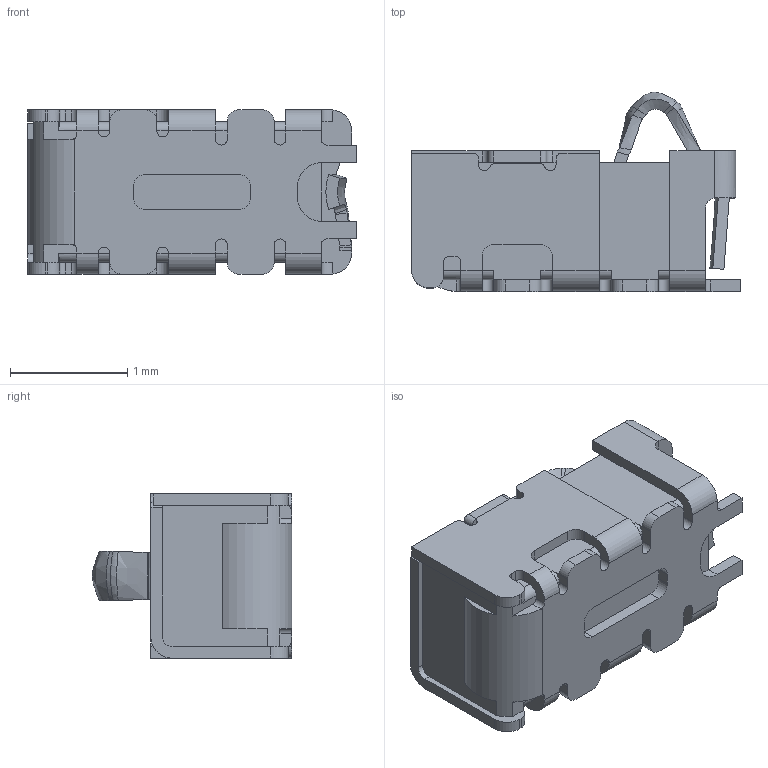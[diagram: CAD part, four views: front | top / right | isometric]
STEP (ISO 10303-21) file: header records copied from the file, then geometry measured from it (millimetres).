
FILE_DESCRIPTION((''),'2;1');
FILE_NAME('3D-2014014-0A-00_ASM','2022-04-25T',('TPS'),(''),'CREO PARAMETRIC BY PTC INC, 2015290','CREO PARAMETRIC BY PTC INC, 2015290','');
FILE_SCHEMA(('CONFIG_CONTROL_DESIGN'));
Products named in the file (2): 3D-2014014-00-00; 3D-2014014-0A-00_ASM
Assembly tree (1 placements, depth 2):
  3D-2014014-0A-00_ASM
    3D-2014014-00-00
Bounding box: 2.8 x 1.7 x 1.4 mm (x, y, z)
Volume: 3.9 mm3; surface area: 20.5 mm2
Topology: 1 solids, 1 shells, 282 faces, 770 edges, 491 vertices
Faces by surface type: plane 134, cylinder 84, bspline 61, cone 3
Entity records: 10684 total; most frequent: CARTESIAN_POINT 3792, ORIENTED_EDGE 1540, DIRECTION 1268, EDGE_CURVE 770, VERTEX_POINT 491, VECTOR 462, LINE 462, AXIS2_PLACEMENT_3D 403
